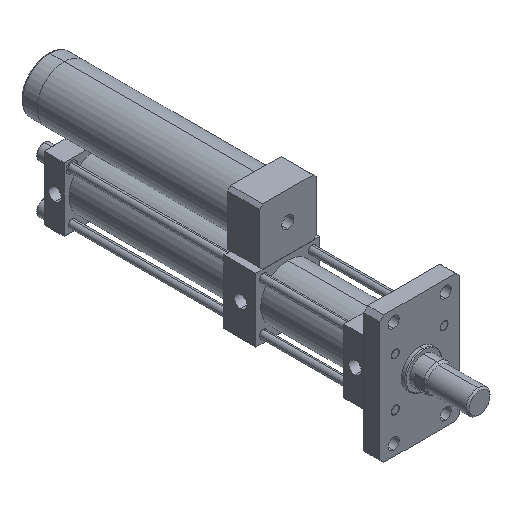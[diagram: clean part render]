
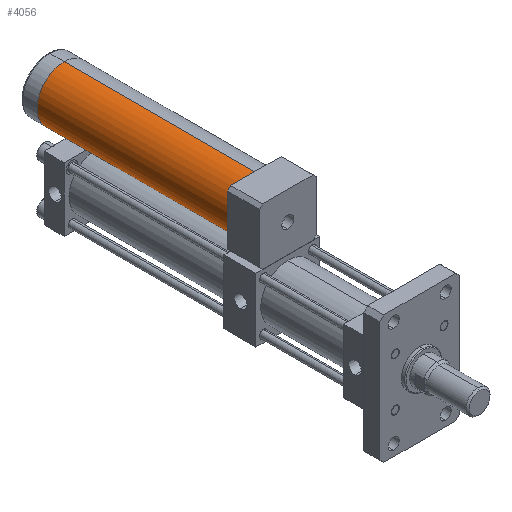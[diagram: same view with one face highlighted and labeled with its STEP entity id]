
A CAD part, isometric view. The second image highlights one B-rep face of the part: STEP entity #4056.
In plain terms, the highlighted cylindrical face has radius 34 mm (diameter 68 mm), a partial arc.
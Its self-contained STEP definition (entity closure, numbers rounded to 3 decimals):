
#131 = DIRECTION ( 'NONE',  ( 0., -1., 0. ) ) ;
#165 = CARTESIAN_POINT ( 'NONE',  ( 0., 150., 75.5 ) ) ;
#354 = LINE ( 'NONE', #7097, #6634 ) ;
#495 = ORIENTED_EDGE ( 'NONE', *, *, #1110, .T. ) ;
#630 = EDGE_CURVE ( 'NONE', #2465, #1456, #354, .T. ) ;
#731 = DIRECTION ( 'NONE',  ( 0., 0., 1. ) ) ;
#1110 = EDGE_CURVE ( 'NONE', #1456, #2604, #6444, .T. ) ;
#1263 = AXIS2_PLACEMENT_3D ( 'NONE', #165, #4058, #731 ) ;
#1359 = EDGE_LOOP ( 'NONE', ( #2992, #7088, #2574, #495 ) ) ;
#1456 = VERTEX_POINT ( 'NONE', #2489 ) ;
#1832 = DIRECTION ( 'NONE',  ( 0., -1., 0. ) ) ;
#1840 = VECTOR ( 'NONE', #131, 1000. ) ;
#2387 = CARTESIAN_POINT ( 'NONE',  ( 0., 390., 75.5 ) ) ;
#2465 = VERTEX_POINT ( 'NONE', #6333 ) ;
#2489 = CARTESIAN_POINT ( 'NONE',  ( 0., 150., 41.5 ) ) ;
#2524 = CYLINDRICAL_SURFACE ( 'NONE', #5556, 34. ) ;
#2574 = ORIENTED_EDGE ( 'NONE', *, *, #630, .T. ) ;
#2604 = VERTEX_POINT ( 'NONE', #5876 ) ;
#2830 = CARTESIAN_POINT ( 'NONE',  ( 0., 390., 75.5 ) ) ;
#2896 = VERTEX_POINT ( 'NONE', #6454 ) ;
#2956 = DIRECTION ( 'NONE',  ( 0., 0., -1. ) ) ;
#2992 = ORIENTED_EDGE ( 'NONE', *, *, #3683, .F. ) ;
#3321 = LINE ( 'NONE', #6812, #1840 ) ;
#3395 = DIRECTION ( 'NONE',  ( 0., 0., 1. ) ) ;
#3683 = EDGE_CURVE ( 'NONE', #2896, #2604, #3321, .T. ) ;
#3768 = DIRECTION ( 'NONE',  ( 0., -1., 0. ) ) ;
#4056 = ADVANCED_FACE ( 'NONE', ( #6958 ), #2524, .T. ) ;
#4058 = DIRECTION ( 'NONE',  ( 0., 1., 0. ) ) ;
#4279 = CIRCLE ( 'NONE', #5058, 34. ) ;
#5058 = AXIS2_PLACEMENT_3D ( 'NONE', #2830, #6720, #3395 ) ;
#5556 = AXIS2_PLACEMENT_3D ( 'NONE', #2387, #1832, #2956 ) ;
#5876 = CARTESIAN_POINT ( 'NONE',  ( 0., 150., 109.5 ) ) ;
#6333 = CARTESIAN_POINT ( 'NONE',  ( 0., 390., 41.5 ) ) ;
#6444 = CIRCLE ( 'NONE', #1263, 34. ) ;
#6454 = CARTESIAN_POINT ( 'NONE',  ( 0., 390., 109.5 ) ) ;
#6634 = VECTOR ( 'NONE', #3768, 1000. ) ;
#6720 = DIRECTION ( 'NONE',  ( 0., 1., 0. ) ) ;
#6812 = CARTESIAN_POINT ( 'NONE',  ( 0., 390., 109.5 ) ) ;
#6888 = EDGE_CURVE ( 'NONE', #2465, #2896, #4279, .T. ) ;
#6958 = FACE_OUTER_BOUND ( 'NONE', #1359, .T. ) ;
#7088 = ORIENTED_EDGE ( 'NONE', *, *, #6888, .F. ) ;
#7097 = CARTESIAN_POINT ( 'NONE',  ( 0., 390., 41.5 ) ) ;
